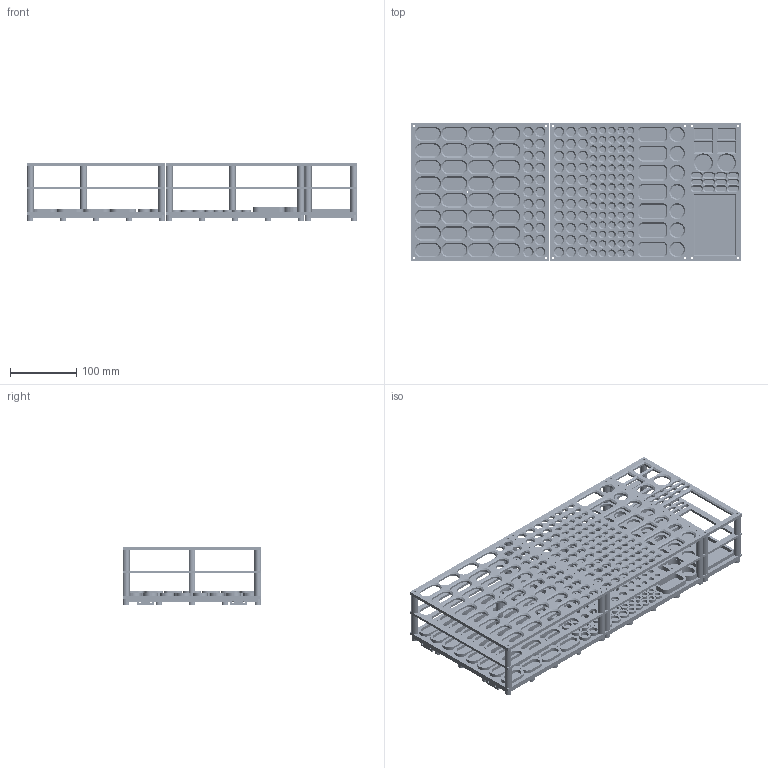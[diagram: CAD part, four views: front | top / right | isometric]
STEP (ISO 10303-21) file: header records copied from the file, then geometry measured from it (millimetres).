
FILE_DESCRIPTION(/* description */ (''),/* implementation_level */ '2;1');
FILE_NAME(/* name */ 'Desktop Tools Organizer.step',/* time_stamp */ '2026-10-05T00:51:54+02:00',/* author */ (''),/* organization */ (''),/* preprocessor_version */ 'ST-DEVELOPER v20.2',/* originating_system */ 'Autodesk Translation Framework v15.15.0.0',/* authorisation */ '');
FILE_SCHEMA (('AUTOMOTIVE_DESIGN { 1 0 10303 214 3 1 1 }'));
Products named in the file (1): Nieuw gereedschapsrekje voor op bureau
Bounding box: 500.4 x 210 x 88 mm (x, y, z)
Volume: 1363555.4 mm3; surface area: 807201.4 mm2
Topology: 40 solids, 40 shells, 2927 faces, 7063 edges, 4296 vertices
Faces by surface type: cylinder 1361, plane 1316, cone 250
Full cylindrical faces by diameter (mm): 3.2 x106, 8 x210, 10 x57, 10.636 x23, 12 x165, 14 x14, 18 x20, 20 x21, 25 x6
Entity records: 87156 total; most frequent: DIRECTION 16044, CARTESIAN_POINT 14346, ORIENTED_EDGE 14126, EDGE_CURVE 7063, AXIS2_PLACEMENT_3D 6066, VERTEX_POINT 4296, EDGE_LOOP 4110, LINE 3912
